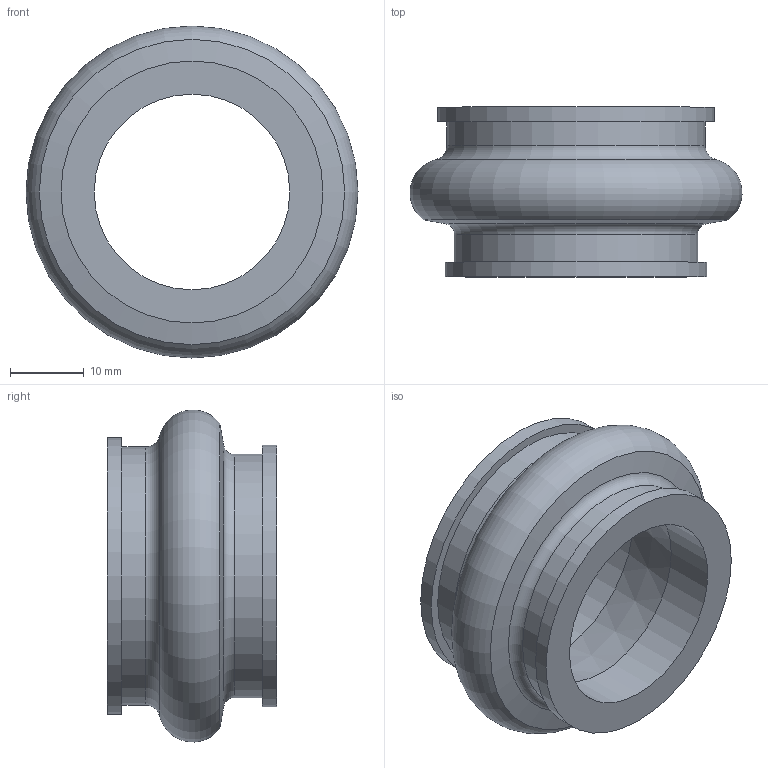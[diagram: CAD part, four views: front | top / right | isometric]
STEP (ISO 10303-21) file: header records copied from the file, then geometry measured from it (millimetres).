
FILE_DESCRIPTION(/* description */ (''),/* implementation_level */ '2;1');
FILE_NAME(/* name */ 'C:\Users\Basti\Desktop\muffe.stp',/* time_stamp */ '2022-08-23T17:09:46+02:00',/* author */ ('Basti'),/* organization */ (''),/* preprocessor_version */ 'ST-DEVELOPER v18.1',/* originating_system */ 'Autodesk Inventor 2022',/* authorisation */ '');
FILE_SCHEMA (('AUTOMOTIVE_DESIGN { 1 0 10303 214 3 1 1 }'));
Length unit declared in the file: millimetre
Products named in the file (1): muffe
Bounding box: 44.99 x 23 x 44.99 mm (x, y, z)
Volume: 11981.2 mm3; surface area: 6648.5 mm2
Topology: 1 solids, 1 shells, 15 faces, 30 edges, 19 vertices
Faces by surface type: cylinder 6, plane 4, torus 3, cone 2
Full cylindrical faces by diameter (mm): 26.5 x1, 30 x1, 33 x1, 35 x1, 35.5 x1, 37.5 x1
Entity records: 447 total; most frequent: DIRECTION 84, CARTESIAN_POINT 65, ORIENTED_EDGE 60, AXIS2_PLACEMENT_3D 38, EDGE_CURVE 30, CIRCLE 22, EDGE_LOOP 19, VERTEX_POINT 19
